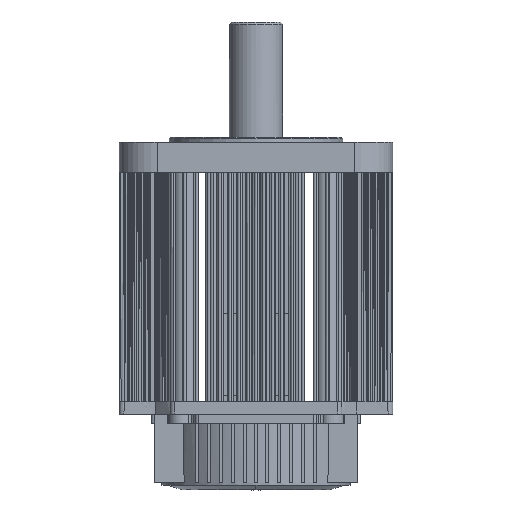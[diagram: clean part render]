
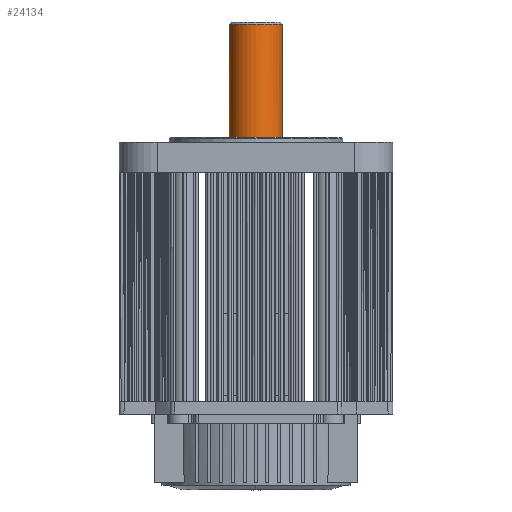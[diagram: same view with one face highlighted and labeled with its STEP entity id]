
A CAD part, front view. The second image highlights one B-rep face of the part: STEP entity #24134.
In plain terms, the highlighted cylindrical face has radius 17.5 mm (diameter 35 mm), a partial arc.
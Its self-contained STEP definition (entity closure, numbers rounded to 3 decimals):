
#88 = CARTESIAN_POINT ( 'NONE',  ( 2.291, -17.387, 23.2 ) ) ;
#109 = CARTESIAN_POINT ( 'NONE',  ( -5.639, -16.606, 23.2 ) ) ;
#2373 = AXIS2_PLACEMENT_3D ( 'NONE', #9616, #34896, #38071 ) ;
#2982 = CARTESIAN_POINT ( 'NONE',  ( 17.5, 0., 23.2 ) ) ;
#3143 = CARTESIAN_POINT ( 'NONE',  ( -11.564, -13.184, 23.2 ) ) ;
#3406 = CARTESIAN_POINT ( 'NONE',  ( 1.145, -17.5, 23.2 ) ) ;
#3429 = CARTESIAN_POINT ( 'NONE',  ( -2.291, -17.387, 23.2 ) ) ;
#6197 = CARTESIAN_POINT ( 'NONE',  ( -15.73, -7.755, 23.2 ) ) ;
#6204 = LINE ( 'NONE', #24961, #10197 ) ;
#6479 = CARTESIAN_POINT ( 'NONE',  ( -15.187, -8.77, 23.2 ) ) ;
#6809 = ORIENTED_EDGE ( 'NONE', *, *, #34611, .T. ) ;
#8999 = ORIENTED_EDGE ( 'NONE', *, *, #14463, .T. ) ;
#9498 = CARTESIAN_POINT ( 'NONE',  ( 8.77, -15.187, 23.2 ) ) ;
#9616 = CARTESIAN_POINT ( 'NONE',  ( 0., 0., 97.5 ) ) ;
#9636 = CARTESIAN_POINT ( 'NONE',  ( 16.606, -5.639, 23.2 ) ) ;
#9658 = CARTESIAN_POINT ( 'NONE',  ( -7.755, -15.73, 23.2 ) ) ;
#10197 = VECTOR ( 'NONE', #21904, 1000. ) ;
#11200 = ORIENTED_EDGE ( 'NONE', *, *, #27437, .F. ) ;
#11790 = VERTEX_POINT ( 'NONE', #40229 ) ;
#12406 = EDGE_CURVE ( 'NONE', #31049, #12898, #28584, .T. ) ;
#12572 = CARTESIAN_POINT ( 'NONE',  ( 13.184, -11.564, 23.2 ) ) ;
#12712 = CARTESIAN_POINT ( 'NONE',  ( 17.387, -2.291, 23.2 ) ) ;
#12858 = CARTESIAN_POINT ( 'NONE',  ( 5.639, -16.606, 23.2 ) ) ;
#12898 = VERTEX_POINT ( 'NONE', #24970 ) ;
#14373 = EDGE_LOOP ( 'NONE', ( #6809, #8999, #29594, #18260, #11200 ) ) ;
#14463 = EDGE_CURVE ( 'NONE', #11790, #31049, #6204, .T. ) ;
#14674 = DIRECTION ( 'NONE',  ( 0., 0., -1. ) ) ;
#15103 = CYLINDRICAL_SURFACE ( 'NONE', #29938, 17.5 ) ;
#15465 = CARTESIAN_POINT ( 'NONE',  ( 15.73, -7.755, 23.2 ) ) ;
#15628 = CARTESIAN_POINT ( 'NONE',  ( -13.914, -10.675, 23.2 ) ) ;
#15746 = CARTESIAN_POINT ( 'NONE',  ( 4.537, -16.94, 23.2 ) ) ;
#17249 = EDGE_CURVE ( 'NONE', #12898, #40892, #24568, .T. ) ;
#18260 = ORIENTED_EDGE ( 'NONE', *, *, #17249, .T. ) ;
#18395 = LINE ( 'NONE', #36286, #19403 ) ;
#18680 = CARTESIAN_POINT ( 'NONE',  ( 10.675, -13.914, 23.2 ) ) ;
#19131 = CARTESIAN_POINT ( 'NONE',  ( -8.77, -15.187, 23.2 ) ) ;
#19242 = CARTESIAN_POINT ( 'NONE',  ( 0., -17.5, 23.2 ) ) ;
#19403 = VECTOR ( 'NONE', #28919, 1000. ) ;
#20637 = CARTESIAN_POINT ( 'NONE',  ( 17.5, 0., 23.2 ) ) ;
#21904 = DIRECTION ( 'NONE',  ( 0., 0., -1. ) ) ;
#22295 = CARTESIAN_POINT ( 'NONE',  ( 7.755, -15.73, 23.2 ) ) ;
#22448 = CARTESIAN_POINT ( 'NONE',  ( 0., -17.5, 23.2 ) ) ;
#24134 = ADVANCED_FACE ( 'NONE', ( #30002 ), #15103, .F. ) ;
#24166 = CARTESIAN_POINT ( 'NONE',  ( -17.5, 0., 97.5 ) ) ;
#24568 = B_SPLINE_CURVE_WITH_KNOTS ( 'NONE', 3,
 ( #22448, #31599, #3429, #41022, #109, #9658, #19131, #32009, #3143, #31876, #15628, #6479, #6197, #25651, #37975, #41150, #28262, #34798 ),
 .UNSPECIFIED., .F., .F.,
 ( 4, 2, 2, 2, 2, 2, 2, 2, 4 ),
 ( 0., 0.062, 0.125, 0.187, 0.25, 0.312, 0.375, 0.438, 0.5 ),
 .UNSPECIFIED. ) ;
#24961 = CARTESIAN_POINT ( 'NONE',  ( 17.5, 0., 97.5 ) ) ;
#24970 = CARTESIAN_POINT ( 'NONE',  ( 0., -17.5, 23.2 ) ) ;
#25651 = CARTESIAN_POINT ( 'NONE',  ( -16.606, -5.639, 23.2 ) ) ;
#27437 = EDGE_CURVE ( 'NONE', #30462, #40892, #18395, .T. ) ;
#28262 = CARTESIAN_POINT ( 'NONE',  ( -17.5, -1.145, 23.2 ) ) ;
#28528 = CARTESIAN_POINT ( 'NONE',  ( 15.187, -8.77, 23.2 ) ) ;
#28584 = B_SPLINE_CURVE_WITH_KNOTS ( 'NONE', 3,
 ( #2982, #37823, #12712, #34632, #9636, #15465, #28528, #40865, #12572, #34778, #18680, #9498, #22295, #12858, #15746, #88, #3406, #19242 ),
 .UNSPECIFIED., .F., .F.,
 ( 4, 2, 2, 2, 2, 2, 2, 2, 4 ),
 ( 0.5, 0.563, 0.625, 0.688, 0.75, 0.813, 0.875, 0.938, 1. ),
 .UNSPECIFIED. ) ;
#28919 = DIRECTION ( 'NONE',  ( 0., 0., -1. ) ) ;
#29594 = ORIENTED_EDGE ( 'NONE', *, *, #12406, .T. ) ;
#29938 = AXIS2_PLACEMENT_3D ( 'NONE', #30352, #14674, #36639 ) ;
#30002 = FACE_OUTER_BOUND ( 'NONE', #14373, .T. ) ;
#30352 = CARTESIAN_POINT ( 'NONE',  ( 0., 0., 97.5 ) ) ;
#30462 = VERTEX_POINT ( 'NONE', #24166 ) ;
#31049 = VERTEX_POINT ( 'NONE', #20637 ) ;
#31599 = CARTESIAN_POINT ( 'NONE',  ( -1.145, -17.5, 23.2 ) ) ;
#31876 = CARTESIAN_POINT ( 'NONE',  ( -13.184, -11.564, 23.2 ) ) ;
#32009 = CARTESIAN_POINT ( 'NONE',  ( -10.675, -13.914, 23.2 ) ) ;
#34611 = EDGE_CURVE ( 'NONE', #30462, #11790, #34963, .T. ) ;
#34632 = CARTESIAN_POINT ( 'NONE',  ( 16.94, -4.537, 23.2 ) ) ;
#34778 = CARTESIAN_POINT ( 'NONE',  ( 11.564, -13.184, 23.2 ) ) ;
#34798 = CARTESIAN_POINT ( 'NONE',  ( -17.5, 0., 23.2 ) ) ;
#34896 = DIRECTION ( 'NONE',  ( 0., 0., 1. ) ) ;
#34963 = CIRCLE ( 'NONE', #2373, 17.5 ) ;
#36286 = CARTESIAN_POINT ( 'NONE',  ( -17.5, 0., 97.5 ) ) ;
#36610 = CARTESIAN_POINT ( 'NONE',  ( -17.5, 0., 23.2 ) ) ;
#36639 = DIRECTION ( 'NONE',  ( -1., 0., 0. ) ) ;
#37823 = CARTESIAN_POINT ( 'NONE',  ( 17.5, -1.145, 23.2 ) ) ;
#37975 = CARTESIAN_POINT ( 'NONE',  ( -16.94, -4.537, 23.2 ) ) ;
#38071 = DIRECTION ( 'NONE',  ( 0., -1., 0. ) ) ;
#40229 = CARTESIAN_POINT ( 'NONE',  ( 17.5, 0., 97.5 ) ) ;
#40865 = CARTESIAN_POINT ( 'NONE',  ( 13.914, -10.675, 23.2 ) ) ;
#40892 = VERTEX_POINT ( 'NONE', #36610 ) ;
#41022 = CARTESIAN_POINT ( 'NONE',  ( -4.537, -16.94, 23.2 ) ) ;
#41150 = CARTESIAN_POINT ( 'NONE',  ( -17.387, -2.291, 23.2 ) ) ;
